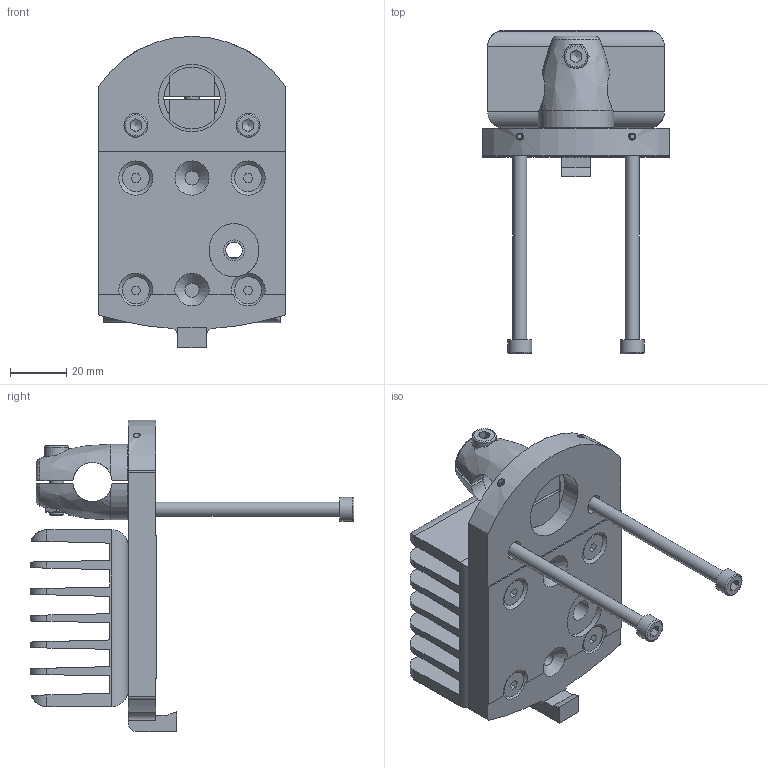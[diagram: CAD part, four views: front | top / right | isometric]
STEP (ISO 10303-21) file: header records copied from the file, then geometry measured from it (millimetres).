
FILE_DESCRIPTION( ( 'STEP AP203' ), ' ' );
FILE_NAME( 'p:/temp/worker_6909/1396_2876/app_42_02017050811303490540323192d056f_000000_00_00_000000/format_3/E3D302(0).stp', '2017-05-08T09:30:41', ( '' ), ( '' ), ' ', 'PARTsolutions', ' ' );
FILE_SCHEMA( ( 'CONFIG_CONTROL_DESIGN' ) );
Length unit declared in the file: millimetre
Products named in the file (7): E3D302(0); _E3D302_part1; _E3D302_part4; _E3D302_part5; _E3D302_part2; _E3D302_part3; _E3D302_part6
Assembly tree (10 placements, depth 2):
  E3D302(0)
    _E3D302_part1
    _E3D302_part4  x3
    _E3D302_part5  x2
    _E3D302_part2  x2
    _E3D302_part3
    _E3D302_part6
Bounding box: 67 x 115.4 x 110.93 mm (x, y, z)
Volume: 135018.8 mm3; surface area: 62528.6 mm2
Topology: 10 solids, 10 shells, 387 faces, 998 edges, 644 vertices
Faces by surface type: plane 215, cylinder 99, cone 62, torus 9, bspline 2
Full cylindrical faces by diameter (mm): 2.5 x4, 4.134 x3, 5 x13, 5.5 x2, 6 x2, 7.5 x1, 8.5 x3, 9.64 x4, 20 x1, 24 x1
Entity records: 9111 total; most frequent: CARTESIAN_POINT 2060, DIRECTION 1400, ORIENTED_EDGE 1350, EDGE_CURVE 675, AXIS2_PLACEMENT_3D 502, VERTEX_POINT 472, LINE 396, VECTOR 396
